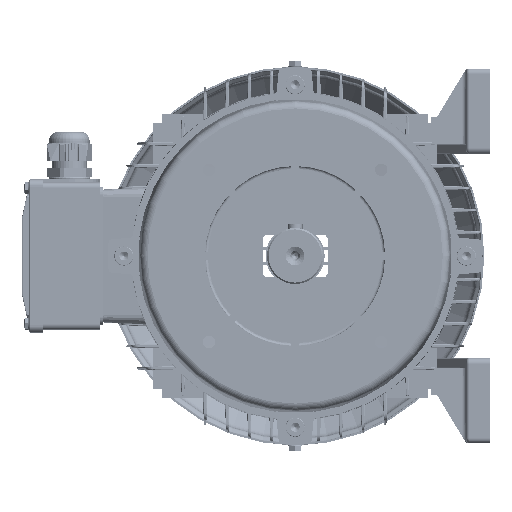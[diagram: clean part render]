
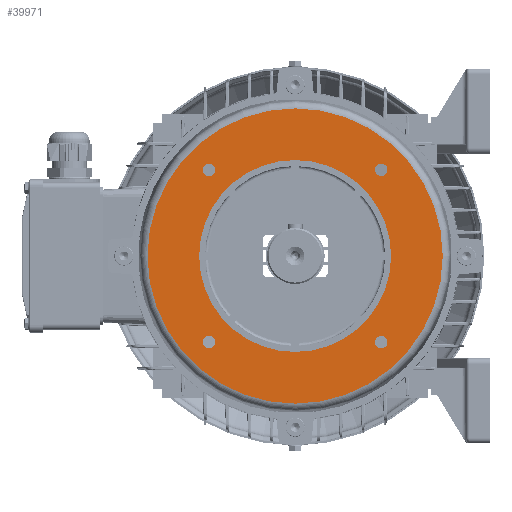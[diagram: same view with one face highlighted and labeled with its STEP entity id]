
A CAD part, left-side view. The second image highlights one B-rep face of the part: STEP entity #39971.
In plain terms, the highlighted planar face has unit normal (-1, 0, 0).
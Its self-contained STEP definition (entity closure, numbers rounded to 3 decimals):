
#1823 = EDGE_LOOP ( 'NONE', ( #30914, #129641 ) ) ;
#3802 = EDGE_LOOP ( 'NONE', ( #92152, #50051 ) ) ;
#5298 = ORIENTED_EDGE ( 'NONE', *, *, #35824, .T. ) ;
#8641 = EDGE_CURVE ( 'NONE', #34789, #13013, #117729, .T. ) ;
#9316 = EDGE_CURVE ( 'NONE', #92595, #156493, #24155, .T. ) ;
#9760 = VERTEX_POINT ( 'NONE', #112279 ) ;
#10990 = DIRECTION ( 'NONE',  ( 0., 0., -1. ) ) ;
#11089 = DIRECTION ( 'NONE',  ( 1., 0., 0. ) ) ;
#13013 = VERTEX_POINT ( 'NONE', #134278 ) ;
#15523 = DIRECTION ( 'NONE',  ( -1., 0., 0. ) ) ;
#15651 = DIRECTION ( 'NONE',  ( 0., 0., -1. ) ) ;
#16193 = EDGE_CURVE ( 'NONE', #69691, #28124, #22435, .T. ) ;
#16342 = EDGE_CURVE ( 'NONE', #13013, #34789, #37990, .T. ) ;
#16411 = EDGE_CURVE ( 'NONE', #156493, #92595, #104134, .T. ) ;
#16769 = CARTESIAN_POINT ( 'NONE',  ( -22., 0., 0. ) ) ;
#16916 = VERTEX_POINT ( 'NONE', #126908 ) ;
#18344 = ORIENTED_EDGE ( 'NONE', *, *, #16193, .F. ) ;
#18851 = DIRECTION ( 'NONE',  ( 0., 0., 1. ) ) ;
#19991 = DIRECTION ( 'NONE',  ( 1., 0., 0. ) ) ;
#21637 = CARTESIAN_POINT ( 'NONE',  ( -22., -58.336, -58.336 ) ) ;
#21642 = AXIS2_PLACEMENT_3D ( 'NONE', #91730, #143921, #154312 ) ;
#21720 = CARTESIAN_POINT ( 'NONE',  ( -22., 0., 0. ) ) ;
#22435 = CIRCLE ( 'NONE', #65852, 65. ) ;
#23746 = FACE_BOUND ( 'NONE', #3802, .T. ) ;
#24155 = CIRCLE ( 'NONE', #21642, 4.25 ) ;
#25580 = FACE_OUTER_BOUND ( 'NONE', #35151, .T. ) ;
#26617 = ORIENTED_EDGE ( 'NONE', *, *, #71887, .T. ) ;
#26763 = ORIENTED_EDGE ( 'NONE', *, *, #16411, .T. ) ;
#27417 = ORIENTED_EDGE ( 'NONE', *, *, #9316, .T. ) ;
#28124 = VERTEX_POINT ( 'NONE', #46702 ) ;
#29570 = EDGE_CURVE ( 'NONE', #28124, #69691, #48848, .T. ) ;
#30344 = CARTESIAN_POINT ( 'NONE',  ( -22., 0., 0. ) ) ;
#30914 = ORIENTED_EDGE ( 'NONE', *, *, #16342, .T. ) ;
#33103 = ORIENTED_EDGE ( 'NONE', *, *, #87311, .T. ) ;
#33445 = FACE_BOUND ( 'NONE', #53904, .T. ) ;
#34789 = VERTEX_POINT ( 'NONE', #108796 ) ;
#35151 = EDGE_LOOP ( 'NONE', ( #5298, #118876 ) ) ;
#35367 = CIRCLE ( 'NONE', #139255, 4.25 ) ;
#35552 = DIRECTION ( 'NONE',  ( 1., 0., 0. ) ) ;
#35824 = EDGE_CURVE ( 'NONE', #117004, #16916, #104465, .T. ) ;
#37316 = FACE_BOUND ( 'NONE', #1823, .T. ) ;
#37990 = CIRCLE ( 'NONE', #129508, 4.25 ) ;
#38270 = CIRCLE ( 'NONE', #148447, 100. ) ;
#38426 = CARTESIAN_POINT ( 'NONE',  ( -22., 0., 0. ) ) ;
#39971 = ADVANCED_FACE ( 'NONE', ( #33445, #23746, #37316, #58694, #25580, #111249 ), #139653, .F. ) ;
#40130 = EDGE_CURVE ( 'NONE', #9760, #161161, #52865, .T. ) ;
#43187 = EDGE_CURVE ( 'NONE', #16916, #117004, #38270, .T. ) ;
#46702 = CARTESIAN_POINT ( 'NONE',  ( -22., 0., -65. ) ) ;
#46886 = AXIS2_PLACEMENT_3D ( 'NONE', #47499, #35552, #10990 ) ;
#47499 = CARTESIAN_POINT ( 'NONE',  ( -22., -58.336, 58.336 ) ) ;
#48646 = DIRECTION ( 'NONE',  ( 1., 0., 0. ) ) ;
#48776 = DIRECTION ( 'NONE',  ( 0., 0., -1. ) ) ;
#48848 = CIRCLE ( 'NONE', #141479, 65. ) ;
#50051 = ORIENTED_EDGE ( 'NONE', *, *, #103144, .T. ) ;
#52280 = VERTEX_POINT ( 'NONE', #138974 ) ;
#52734 = DIRECTION ( 'NONE',  ( 0., 0., 1. ) ) ;
#52865 = CIRCLE ( 'NONE', #73852, 4.25 ) ;
#53741 = AXIS2_PLACEMENT_3D ( 'NONE', #21637, #158719, #48776 ) ;
#53904 = EDGE_LOOP ( 'NONE', ( #33103, #26617 ) ) ;
#54597 = CARTESIAN_POINT ( 'NONE',  ( -22., 58.336, 58.336 ) ) ;
#56901 = AXIS2_PLACEMENT_3D ( 'NONE', #59213, #123348, #97750 ) ;
#58694 = FACE_BOUND ( 'NONE', #101297, .T. ) ;
#58707 = DIRECTION ( 'NONE',  ( 0., 0., 1. ) ) ;
#58754 = CIRCLE ( 'NONE', #56901, 4.25 ) ;
#59213 = CARTESIAN_POINT ( 'NONE',  ( -22., 58.336, 58.336 ) ) ;
#61157 = EDGE_LOOP ( 'NONE', ( #18344, #101522 ) ) ;
#65852 = AXIS2_PLACEMENT_3D ( 'NONE', #38426, #15523, #138474 ) ;
#65955 = AXIS2_PLACEMENT_3D ( 'NONE', #30344, #79234, #18851 ) ;
#67065 = DIRECTION ( 'NONE',  ( 0., 0., -1. ) ) ;
#67338 = VERTEX_POINT ( 'NONE', #97520 ) ;
#69691 = VERTEX_POINT ( 'NONE', #133641 ) ;
#71887 = EDGE_CURVE ( 'NONE', #52280, #67338, #35367, .T. ) ;
#72597 = CARTESIAN_POINT ( 'NONE',  ( -22., -58.336, -58.336 ) ) ;
#73852 = AXIS2_PLACEMENT_3D ( 'NONE', #132016, #19991, #93959 ) ;
#78596 = CARTESIAN_POINT ( 'NONE',  ( -22., -58.336, 62.586 ) ) ;
#79234 = DIRECTION ( 'NONE',  ( -1., 0., 0. ) ) ;
#87311 = EDGE_CURVE ( 'NONE', #67338, #52280, #58754, .T. ) ;
#91730 = CARTESIAN_POINT ( 'NONE',  ( -22., 58.336, -58.336 ) ) ;
#91941 = CARTESIAN_POINT ( 'NONE',  ( -22., 58.336, -54.086 ) ) ;
#92152 = ORIENTED_EDGE ( 'NONE', *, *, #40130, .T. ) ;
#92595 = VERTEX_POINT ( 'NONE', #91941 ) ;
#93959 = DIRECTION ( 'NONE',  ( 0., 0., -1. ) ) ;
#97520 = CARTESIAN_POINT ( 'NONE',  ( -22., 58.336, 54.086 ) ) ;
#97750 = DIRECTION ( 'NONE',  ( 0., 0., -1. ) ) ;
#100093 = CARTESIAN_POINT ( 'NONE',  ( -22., 58.336, -62.586 ) ) ;
#101297 = EDGE_LOOP ( 'NONE', ( #26763, #27417 ) ) ;
#101522 = ORIENTED_EDGE ( 'NONE', *, *, #29570, .F. ) ;
#103144 = EDGE_CURVE ( 'NONE', #161161, #9760, #130807, .T. ) ;
#103226 = CARTESIAN_POINT ( 'NONE',  ( -22., 65., 0. ) ) ;
#103820 = DIRECTION ( 'NONE',  ( -1., 0., 0. ) ) ;
#104134 = CIRCLE ( 'NONE', #159831, 4.25 ) ;
#104465 = CIRCLE ( 'NONE', #65955, 100. ) ;
#108796 = CARTESIAN_POINT ( 'NONE',  ( -22., -58.336, -54.086 ) ) ;
#111249 = FACE_BOUND ( 'NONE', #61157, .T. ) ;
#112279 = CARTESIAN_POINT ( 'NONE',  ( -22., -58.336, 54.086 ) ) ;
#115731 = DIRECTION ( 'NONE',  ( 1., 0., 0. ) ) ;
#117004 = VERTEX_POINT ( 'NONE', #122050 ) ;
#117729 = CIRCLE ( 'NONE', #53741, 4.25 ) ;
#118876 = ORIENTED_EDGE ( 'NONE', *, *, #43187, .T. ) ;
#121792 = AXIS2_PLACEMENT_3D ( 'NONE', #103226, #115731, #15651 ) ;
#122050 = CARTESIAN_POINT ( 'NONE',  ( -22., 0., 100. ) ) ;
#123348 = DIRECTION ( 'NONE',  ( 1., 0., 0. ) ) ;
#123708 = DIRECTION ( 'NONE',  ( 0., 0., -1. ) ) ;
#126908 = CARTESIAN_POINT ( 'NONE',  ( -22., 0., -100. ) ) ;
#129508 = AXIS2_PLACEMENT_3D ( 'NONE', #72597, #48646, #159128 ) ;
#129641 = ORIENTED_EDGE ( 'NONE', *, *, #8641, .T. ) ;
#130807 = CIRCLE ( 'NONE', #46886, 4.25 ) ;
#132016 = CARTESIAN_POINT ( 'NONE',  ( -22., -58.336, 58.336 ) ) ;
#133641 = CARTESIAN_POINT ( 'NONE',  ( -22., 0., 65. ) ) ;
#134278 = CARTESIAN_POINT ( 'NONE',  ( -22., -58.336, -62.586 ) ) ;
#138474 = DIRECTION ( 'NONE',  ( 0., 0., 1. ) ) ;
#138974 = CARTESIAN_POINT ( 'NONE',  ( -22., 58.336, 62.586 ) ) ;
#139255 = AXIS2_PLACEMENT_3D ( 'NONE', #54597, #141547, #67065 ) ;
#139653 = PLANE ( 'NONE',  #121792 ) ;
#141479 = AXIS2_PLACEMENT_3D ( 'NONE', #21720, #146247, #58707 ) ;
#141547 = DIRECTION ( 'NONE',  ( 1., 0., 0. ) ) ;
#143921 = DIRECTION ( 'NONE',  ( 1., 0., 0. ) ) ;
#146247 = DIRECTION ( 'NONE',  ( -1., 0., 0. ) ) ;
#148447 = AXIS2_PLACEMENT_3D ( 'NONE', #16769, #103820, #52734 ) ;
#154312 = DIRECTION ( 'NONE',  ( 0., 0., -1. ) ) ;
#156493 = VERTEX_POINT ( 'NONE', #100093 ) ;
#158719 = DIRECTION ( 'NONE',  ( 1., 0., 0. ) ) ;
#159128 = DIRECTION ( 'NONE',  ( 0., 0., -1. ) ) ;
#159831 = AXIS2_PLACEMENT_3D ( 'NONE', #160194, #11089, #123708 ) ;
#160194 = CARTESIAN_POINT ( 'NONE',  ( -22., 58.336, -58.336 ) ) ;
#161161 = VERTEX_POINT ( 'NONE', #78596 ) ;
